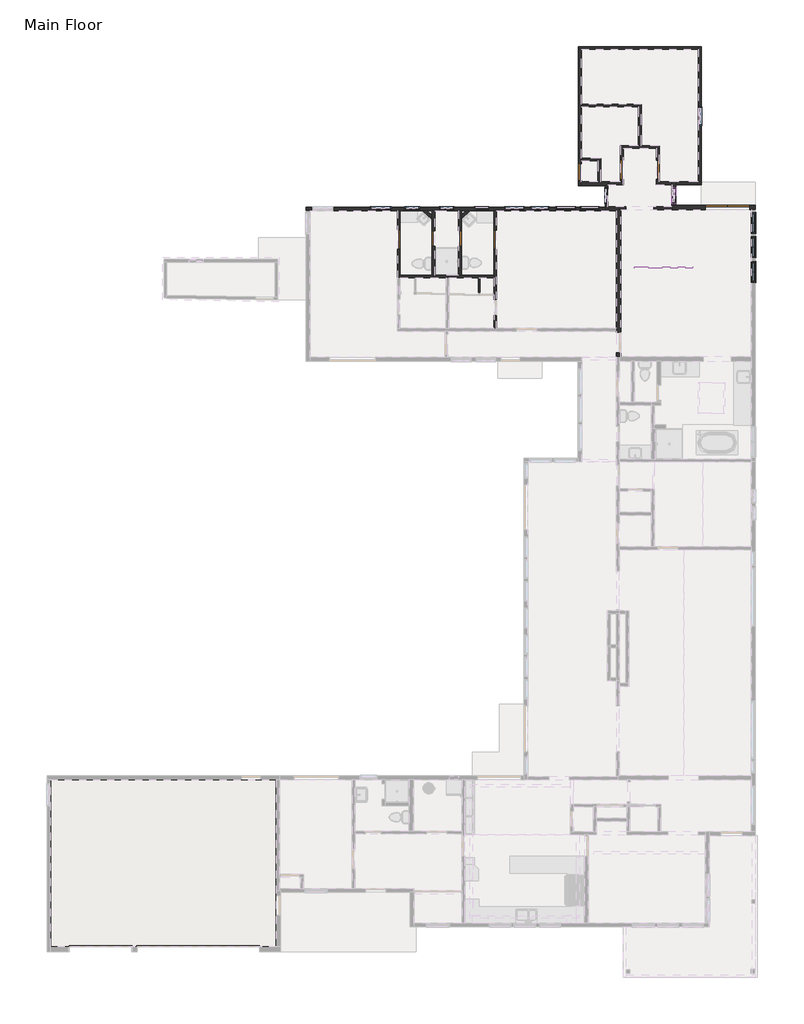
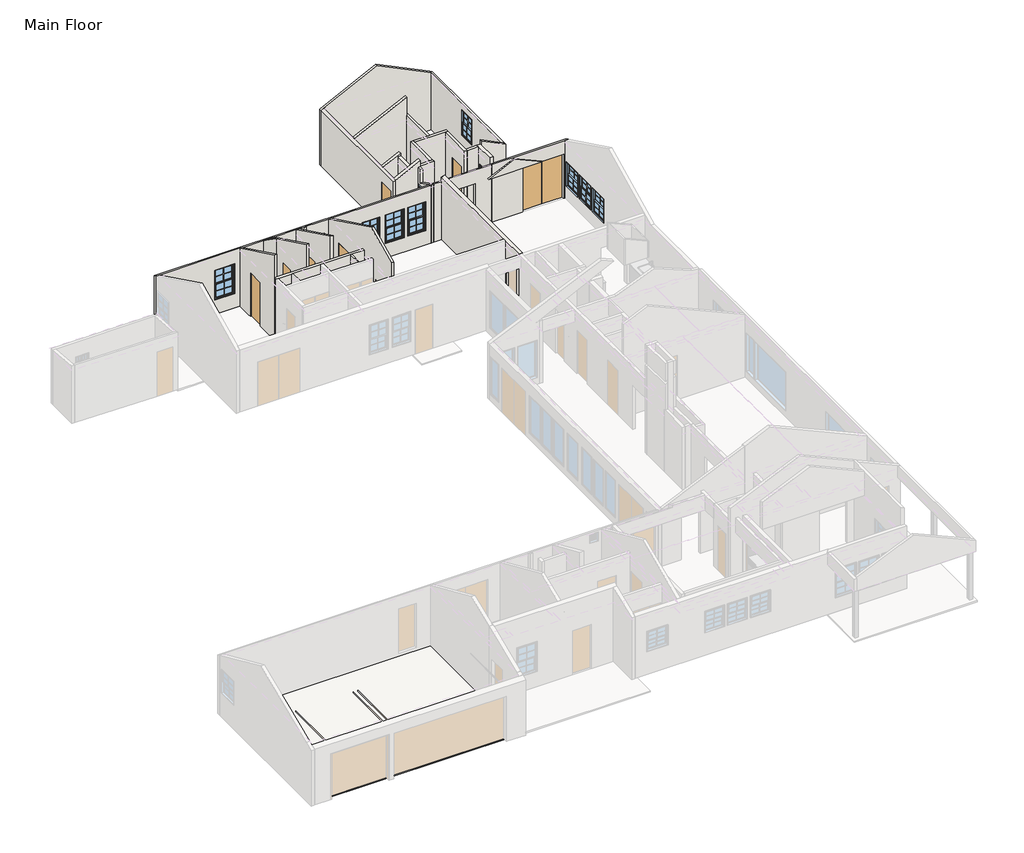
# One storey, part 5 of 7: 30 walls, 14 windows, 8 doors, 1 slab.
"""IFC4 building model written with IfcOpenShell, lengths in millimetres."""

from ifc_helpers import new_model, si_unit, frame, origin, origin_with_axes, place, context, project, spatial, polyline, outline, extrude, faceted_brep, transform, mapped, element, save
from components import door_aef79686, door_b2eef15f, door_72e7b4df, door_aa45f35f, door_f61abd0f, door_c5e53498, default_1_5a369d27, default_1_9b383e01, default_1_c46f66dc, default_1_18b0f4ae, default_1_68fe8677, default_1_9bc41475, default_1_c23df90b, default_1_4a507d28

model = new_model("IFC4")

# Units and contexts
model_context = context("Model", 3, world=origin())
ifc_project = project(units=[si_unit("LENGTHUNIT", "METRE", prefix="MILLI")], contexts=[model_context])

# Site, building, storey
site = spatial("IfcSite", under=ifc_project)
building = spatial("IfcBuilding", under=site)
storey = spatial("IfcBuildingStorey", under=building, Name="Main Floor", Elevation=0.0)

# Doors
placement = place(None, origin())
door_shape = door_aef79686(model_context)
element("IfcDoor", 1, ObjectType="Planitar - Single Door_Flush Panel : 2'-0\" x 6'-8\"", at=placement, inside=storey, context=model_context, shape_type="MappedRepresentation", body=[
    mapped(door_shape, transform((3628.8343008, 18102.5092932, 0.0), x_axis=(0.0, 1.0, 0.0), y_axis=(-1.0, 0.0, 0.0), z_axis=(0.0, 0.0, 1.0))),
])
door_2_shape = door_b2eef15f(model_context)
element("IfcDoor", 2, ObjectType="Planitar - Single Door_Flush Panel : 2'-0\" x 6'-8\"", at=placement, inside=storey, context=model_context, shape_type="MappedRepresentation", body=[
    mapped(door_2_shape, transform((4689.2843008, 18102.5092932, 0.0), x_axis=(0.0, 1.0, 0.0), y_axis=(-1.0, 0.0, 0.0), z_axis=(0.0, 0.0, 1.0))),
])
door_3_shape = door_72e7b4df(model_context)
element("IfcDoor", 3, ObjectType="Planitar - Single Door_Flush Panel : 2'-2\" x 6'-8\"", at=placement, inside=storey, context=model_context, shape_type="MappedRepresentation", body=[
    mapped(door_3_shape, transform((9477.1843008, 20744.8752932, 0.0), x_axis=(0.0, -1.0, 0.0), y_axis=(1.0, 0.0, 0.0), z_axis=(0.0, 0.0, 1.0))),
])
door_4_shape = door_aa45f35f(model_context)
element("IfcDoor", 4, ObjectType="Planitar - Single Door_Flush Panel : 2'-6\" x 6'-8\"", at=placement, inside=storey, context=model_context, shape_type="MappedRepresentation", body=[
    mapped(door_4_shape, transform((2244.5343008, 18059.0132932, 0.0), x_axis=(0.0, -1.0, 0.0), y_axis=(1.0, 0.0, 0.0), z_axis=(0.0, 0.0, 1.0))),
])
element("IfcDoor", 5, ObjectType="Planitar - Single Door_Flush Panel : 2'-6\" x 6'-8\"", at=placement, inside=storey, context=model_context, shape_type="MappedRepresentation", body=[
    mapped(door_4_shape, transform((12588.6843008, 20834.7341932, 0.0), x_axis=(0.0, -1.0, 0.0), y_axis=(1.0, 0.0, 0.0), z_axis=(0.0, 0.0, 1.0))),
])
door_5_shape = door_f61abd0f(model_context)
element("IfcDoor", 6, ObjectType="Planitar - Single Door_Flush Panel : 2'-6\" x 6'-8\"", at=placement, inside=storey, context=model_context, shape_type="MappedRepresentation", body=[
    mapped(door_5_shape, transform((6092.6343008, 18052.7089932, 0.0), x_axis=(0.0, -1.0, 0.0), y_axis=(1.0, 0.0, 0.0), z_axis=(0.0, 0.0, 1.0))),
])
element("IfcDoor", 7, ObjectType="Planitar - Single Door_Flush Panel : 2'-6\" x 6'-8\"", at=placement, inside=storey, context=model_context, shape_type="MappedRepresentation", body=[
    mapped(door_5_shape, transform((11153.5843008, 20838.0552932, 0.0), x_axis=(0.0, -1.0, 0.0), y_axis=(1.0, 0.0, 0.0), z_axis=(0.0, 0.0, 1.0))),
])
door_6_shape = door_c5e53498(model_context)
element("IfcDoor", 8, ObjectType="Planitar - Double Door_Flush Panel : 5'-10\" x 6'-8\"", at=placement, inside=storey, context=model_context, shape_type="MappedRepresentation", body=[
    mapped(door_6_shape, transform((15374.9071008, 19335.1752932, 0.0), x_axis=(1.0, 0.0, 0.0), y_axis=(0.0, 1.0, 0.0), z_axis=(0.0, 0.0, 1.0))),
])

# Slab
element("IfcSlab", 9, ObjectType="Ledge - 2\"", at=placement, inside=storey, context=model_context, shape_type="SweptSolid", body=[
    extrude(outline(polyline([(-2651.3156992, -3480.3747068), (-2651.3156992, -10135.1747068), (-11636.5656992, -10135.1747068), (-11636.5656992, -3480.3747068), (-2651.3156992, -3480.3747068)])), frame((0.0, 0.0, -190.5), z_axis=(0.0, 0.0, 1.0), x_axis=(1.0, 0.0, 0.0)), (0.0, 0.0, 1.0), 50.8),
])

# Walls
element("IfcWall", 10, ObjectType="Planitar - Generic 6 1/2\"", at=placement, inside=storey, context=model_context, shape_type="Brep", body=[
    faceted_brep([(13141.1343008, 19417.7252932, 0.0), (13141.1343008, 19417.7252932, 2565.4), (16468.5343008, 19417.7252932, 2565.4), (16468.5343008, 19417.7252932, 0.0), (16263.9071008, 19417.7252932, 0.0), (16263.9071008, 19417.7252932, 2032.0), (14485.9071008, 19417.7252932, 2032.0), (14485.9071008, 19417.7252932, 0.0), (13293.5343008, 19417.7252932, 0.0), (13141.1343008, 19252.6252932, 2645.9246504), (13141.1343008, 19252.6252932, 0.0), (14485.9071008, 19252.6252932, 0.0), (14485.9071008, 19252.6252932, 2032.0), (16263.9071008, 19252.6252932, 2032.0), (16263.9071008, 19252.6252932, 0.0), (16316.1343008, 19252.6252932, 0.0), (16468.5343008, 19252.6252932, 0.0), (16468.5343008, 19252.6252932, 2645.9246504), (16316.1343008, 19252.6252932, 2645.9246504), (13141.1343008, 19366.9252932, 0.0), (13141.1343008, 19366.9252932, 2590.1768155)], [[[0, 1, 2, 3, 4, 5, 6, 7, 8]], [[9, 10, 11, 12, 13, 14, 15, 16, 17, 18]], [[10, 19, 0, 8, 7, 11]], [[3, 16, 15, 14, 4]], [[1, 0, 19, 10, 9, 20]], [[13, 5, 4, 14]], [[5, 13, 12, 6]], [[6, 12, 11, 7]], [[2, 1, 20, 9, 18, 17]], [[3, 2, 17, 16]]]),
])
element("IfcWall", 11, ObjectType="Planitar - Generic 6\"", at=placement, inside=storey, context=model_context, shape_type="Brep", body=[
    faceted_brep([(13293.5343008, 19417.7252932, 0.0), (13293.5343008, 20249.5752932, 0.0), (13293.5343008, 20363.8752932, 0.0), (13293.5343008, 20363.8752932, 2870.2), (13293.5343008, 19417.7252932, 2870.2), (13293.5343008, 20144.5942932, 2133.6), (13293.5343008, 20144.5942932, 1397.0), (13293.5343008, 19484.1942932, 1397.0), (13293.5343008, 19484.1942932, 2133.6), (13141.1343008, 19417.7252932, 0.0), (13141.1343008, 19417.7252932, 2565.4), (13141.1343008, 19417.7252932, 2870.2), (13141.1343008, 20249.5752932, 2870.2), (13141.1343008, 20363.8752932, 2870.2), (13141.1343008, 20363.8752932, 0.0), (13141.1343008, 20249.5752932, 0.0), (13141.1343008, 20144.5942932, 2133.6), (13141.1343008, 19484.1942932, 2133.6), (13141.1343008, 19484.1942932, 1397.0), (13141.1343008, 20144.5942932, 1397.0)], [[[0, 1, 2, 3, 4], [5, 6, 7, 8]], [[9, 10, 11, 12, 13, 14, 15], [16, 17, 18, 19]], [[2, 1, 0, 9, 15, 14]], [[4, 3, 13, 12, 11]], [[0, 4, 11, 10, 9]], [[3, 2, 14, 13]], [[6, 5, 16, 19]], [[7, 6, 19, 18]], [[8, 7, 18, 17]], [[5, 8, 17, 16]]]),
])
element("IfcWall", 12, ObjectType="Planitar - Generic 4 1/2\"", at=placement, inside=storey, context=model_context, shape_type="Brep", body=[
    faceted_brep([(13293.5343008, 20249.5752932, 0.0), (14315.8843008, 20249.5752932, 0.0), (14315.8843008, 20249.5752932, 2565.4), (13293.5343008, 20249.5752932, 3064.0334119), (13293.5343008, 20363.8752932, 0.0), (13293.5343008, 20363.8752932, 2870.2), (13293.5343008, 20363.8752932, 3064.0334119), (14201.5843008, 20363.8752932, 2621.1478349), (14315.8843008, 20363.8752932, 2565.4), (14315.8843008, 20363.8752932, 0.0), (14201.5843008, 20363.8752932, 0.0)], [[[0, 1, 2, 3]], [[4, 5, 6, 7, 8, 9, 10]], [[1, 0, 4, 10, 9]], [[0, 3, 6, 5, 4]], [[2, 1, 9, 8]], [[3, 2, 8, 7, 6]]]),
])
element("IfcWall", 13, ObjectType="Planitar - Generic 4 1/2\"", at=placement, inside=storey, context=model_context, shape_type="Brep", body=[
    faceted_brep([(14315.8843008, 20363.8752932, 0.0), (14315.8843008, 25755.0252932, 0.0), (14315.8843008, 25755.0252932, 2565.4), (14315.8843008, 20363.8752932, 2565.4), (14315.8843008, 23361.9081932, 2311.4), (14315.8843008, 23361.9081932, 1143.0), (14315.8843008, 22599.9081932, 1143.0), (14315.8843008, 22599.9081932, 2311.4), (14201.5843008, 20363.8752932, 0.0), (14201.5843008, 20363.8752932, 2621.1478349), (14201.5843008, 25640.7252932, 2621.1478349), (14201.5843008, 25755.0252932, 2621.1478349), (14201.5843008, 25755.0252932, 0.0), (14201.5843008, 25640.7252932, 0.0), (14201.5843008, 23361.9081932, 2311.4), (14201.5843008, 22599.9081932, 2311.4), (14201.5843008, 22599.9081932, 1143.0), (14201.5843008, 23361.9081932, 1143.0)], [[[0, 1, 2, 3], [4, 5, 6, 7]], [[8, 9, 10, 11, 12, 13], [14, 15, 16, 17]], [[1, 0, 8, 13, 12]], [[0, 3, 9, 8]], [[2, 1, 12, 11]], [[5, 4, 14, 17]], [[6, 5, 17, 16]], [[7, 6, 16, 15]], [[4, 7, 15, 14]], [[3, 2, 11, 10, 9]]]),
])
element("IfcWall", 14, ObjectType="Planitar - Generic 4 1/2\"", at=placement, inside=storey, context=model_context, shape_type="Brep", body=[
    faceted_brep([(14201.5843008, 25755.0252932, 0.0), (9420.0343008, 25755.0252932, 0.0), (9420.0343008, 25755.0252932, 2565.4), (11867.9593008, 25755.0252932, 3759.3327969), (14201.5843008, 25755.0252932, 2621.1478349), (14201.5843008, 25640.7252932, 0.0), (14201.5843008, 25640.7252932, 2621.1478349), (11867.9593008, 25640.7252932, 3759.3327969), (9534.3343008, 25640.7252932, 2621.1478349), (9420.0343008, 25640.7252932, 2565.4), (9420.0343008, 25640.7252932, 0.0), (9534.3343008, 25640.7252932, 0.0)], [[[0, 1, 2, 3, 4]], [[5, 6, 7, 8, 9, 10, 11]], [[1, 0, 5, 11, 10]], [[0, 4, 6, 5]], [[2, 1, 10, 9]], [[4, 3, 7, 6]], [[3, 2, 9, 8, 7]]]),
])
element("IfcWall", 15, ObjectType="Planitar - Generic 4 1/2\"", at=placement, inside=storey, context=model_context, shape_type="Brep", body=[
    faceted_brep([(9420.0343008, 20414.6752932, 2032.0), (9420.0343008, 20414.6752932, 0.0), (9420.0343008, 20211.4752932, 0.0), (9420.0343008, 20211.4752932, 2565.4), (9420.0343008, 25640.7252932, 2565.4), (9420.0343008, 25640.7252932, 0.0), (9420.0343008, 21075.0752932, 0.0), (9420.0343008, 21075.0752932, 2032.0), (9534.3343008, 20211.4752932, 0.0), (9534.3343008, 20363.8752932, 0.0), (9534.3343008, 20414.6752932, 0.0), (9534.3343008, 20414.6752932, 2032.0), (9534.3343008, 21075.0752932, 2032.0), (9534.3343008, 21075.0752932, 0.0), (9534.3343008, 21195.7252932, 0.0), (9534.3343008, 21310.0252932, 0.0), (9534.3343008, 23348.3752932, 0.0), (9534.3343008, 23462.6752932, 0.0), (9534.3343008, 25640.7252932, 0.0), (9534.3343008, 25640.7252932, 2621.1478349), (9534.3343008, 23462.6752932, 2621.1478349), (9534.3343008, 23348.3752932, 2621.1478349), (9534.3343008, 21310.0252932, 2621.1478349), (9534.3343008, 21195.7252932, 2621.1478349), (9534.3343008, 20363.8752932, 2621.1478349), (9534.3343008, 20211.4752932, 2621.1478349)], [[[0, 1, 2, 3, 4, 5, 6, 7]], [[8, 9, 10, 11, 12, 13, 14, 15, 16, 17, 18, 19, 20, 21, 22, 23, 24, 25]], [[6, 5, 18, 17, 16, 15, 14, 13]], [[2, 1, 10, 9, 8]], [[5, 4, 19, 18]], [[3, 2, 8, 25]], [[11, 10, 1, 0]], [[12, 11, 0, 7]], [[13, 12, 7, 6]], [[4, 3, 25, 24, 23, 22, 21, 20, 19]]]),
])
element("IfcWall", 16, ObjectType="Planitar - Generic 6\"", at=placement, inside=storey, context=model_context, shape_type="Brep", body=[
    faceted_brep([(9534.3343008, 20211.4752932, 0.0), (10486.8343008, 20211.4752932, 0.0), (10601.1343008, 20211.4752932, 0.0), (10601.1343008, 20211.4752932, 2870.2), (10601.1343008, 20211.4752932, 3141.4609604), (9534.3343008, 20211.4752932, 2621.1478349), (9534.3343008, 20363.8752932, 0.0), (9534.3343008, 20363.8752932, 2621.1478349), (10601.1343008, 20363.8752932, 3141.4609604), (10601.1343008, 20363.8752932, 2870.2), (10601.1343008, 20363.8752932, 0.0), (10302.6843008, 20363.8752932, 0.0), (10188.3843008, 20363.8752932, 0.0), (10601.1343008, 20249.5752932, 0.0)], [[[0, 1, 2, 3, 4, 5]], [[6, 7, 8, 9, 10, 11, 12]], [[2, 1, 0, 6, 12, 11, 10, 13]], [[0, 5, 7, 6]], [[4, 3, 2, 13, 10, 9, 8]], [[5, 4, 8, 7]]]),
])
element("IfcWall", 17, ObjectType="Planitar - Generic 4 1/2\"", at=placement, inside=storey, context=model_context, shape_type="Brep", body=[
    faceted_brep([(10486.8343008, 20211.4752932, 0.0), (10486.8343008, 19354.2252932, 0.0), (10486.8343008, 19214.5252932, 0.0), (10486.8343008, 19214.5252932, 2664.507262), (10486.8343008, 19354.2252932, 2596.3710194), (10486.8343008, 20027.3252932, 2268.078214), (10486.8343008, 20027.3252932, 2870.2), (10486.8343008, 20211.4752932, 2870.2), (10486.8343008, 19481.8714932, 2133.6), (10486.8343008, 19481.8714932, 812.8), (10486.8343008, 20142.2714932, 812.8), (10486.8343008, 20142.2714932, 2133.6), (10601.1343008, 20211.4752932, 0.0), (10601.1343008, 20211.4752932, 2870.2), (10601.1343008, 20027.3252932, 2870.2), (10601.1343008, 20027.3252932, 2268.078214), (10601.1343008, 19366.9252932, 2590.1768155), (10601.1343008, 19214.5252932, 2664.507262), (10601.1343008, 19214.5252932, 0.0), (10601.1343008, 19366.9252932, 0.0), (10601.1343008, 19481.8714932, 2133.6), (10601.1343008, 20142.2714932, 2133.6), (10601.1343008, 20142.2714932, 812.8), (10601.1343008, 19481.8714932, 812.8)], [[[0, 1, 2, 3, 4, 5, 6, 7], [8, 9, 10, 11]], [[12, 13, 14, 15, 16, 17, 18, 19], [20, 21, 22, 23]], [[2, 1, 0, 12, 19, 18]], [[0, 7, 13, 12]], [[3, 2, 18, 17]], [[9, 8, 20, 23]], [[10, 9, 23, 22]], [[11, 10, 22, 21]], [[8, 11, 21, 20]], [[7, 6, 14, 13]], [[14, 6, 5, 15]], [[5, 4, 3, 17, 16, 15]]]),
])
element("IfcWall", 18, ObjectType="Planitar - Generic 5 1/2\"", at=placement, inside=storey, context=model_context, shape_type="Brep", body=[
    faceted_brep([(10486.8343008, 19354.2252932, 0.0), (-1451.1656992, 19354.2252932, 0.0), (-1451.1656992, 19354.2252932, 2596.3710194), (10486.8343008, 19354.2252932, 2596.3710194), (9483.6013008, 19354.2252932, 1981.2), (9483.6013008, 19354.2252932, 660.4), (10245.6013008, 19354.2252932, 660.4), (10245.6013008, 19354.2252932, 1981.2), (8502.3847008, 19354.2252932, 1981.2), (8502.3847008, 19354.2252932, 660.4), (9315.1847008, 19354.2252932, 660.4), (9315.1847008, 19354.2252932, 1981.2), (7496.3708008, 19354.2252932, 1981.2), (7496.3708008, 19354.2252932, 660.4), (8258.3708008, 19354.2252932, 660.4), (8258.3708008, 19354.2252932, 1981.2), (6457.2860008, 19354.2252932, 1981.2), (6457.2860008, 19354.2252932, 660.4), (7270.0860008, 19354.2252932, 660.4), (7270.0860008, 19354.2252932, 1981.2), (5242.9620008, 19354.2252932, 2082.8), (5242.9620008, 19354.2252932, 1092.2), (5852.5620008, 19354.2252932, 1092.2), (5852.5620008, 19354.2252932, 2082.8), (3857.6188008, 19354.2252932, 2082.8), (3857.6188008, 19354.2252932, 1092.2), (4467.2188008, 19354.2252932, 1092.2), (4467.2188008, 19354.2252932, 2082.8), (2475.1500008, 19354.2252932, 2082.8), (2475.1500008, 19354.2252932, 1092.2), (3084.7500008, 19354.2252932, 1092.2), (3084.7500008, 19354.2252932, 2082.8), (1094.1622008, 19354.2252932, 2032.0), (1094.1622008, 19354.2252932, 660.4), (1957.7622008, 19354.2252932, 660.4), (1957.7622008, 19354.2252932, 2032.0), (-1212.7043992, 19354.2252932, 2032.0), (-1212.7043992, 19354.2252932, 660.4), (-349.1043992, 19354.2252932, 660.4), (-349.1043992, 19354.2252932, 2032.0), (10486.8343008, 19214.5252932, 0.0), (10486.8343008, 19214.5252932, 2664.507262), (6149.7843008, 19214.5252932, 2664.507262), (6035.4843008, 19214.5252932, 2664.507262), (5081.2566008, 19214.5252932, 2664.507262), (4919.6119906, 19214.5252932, 2664.507262), (4746.4343008, 19214.5252932, 2664.507262), (4632.1343008, 19214.5252932, 2664.507262), (3685.9843008, 19214.5252932, 2664.507262), (3571.6843008, 19214.5252932, 2664.507262), (3369.2054117, 19214.5252932, 2664.507262), (3201.6097008, 19214.5252932, 2664.507262), (2301.6843008, 19214.5252932, 2664.507262), (2187.3843008, 19214.5252932, 2664.507262), (-1298.7656992, 19214.5252932, 2664.507262), (-1451.1656992, 19214.5252932, 2664.507262), (-1451.1656992, 19214.5252932, 0.0), (-1298.7656992, 19214.5252932, 0.0), (2187.3843008, 19214.5252932, 0.0), (2301.6843008, 19214.5252932, 0.0), (3201.6097008, 19214.5252932, 0.0), (3369.2054117, 19214.5252932, 0.0), (3571.6843008, 19214.5252932, 0.0), (3685.9843008, 19214.5252932, 0.0), (4632.1343008, 19214.5252932, 0.0), (4746.4343008, 19214.5252932, 0.0), (4919.6119906, 19214.5252932, 0.0), (5081.2566008, 19214.5252932, 0.0), (6035.4843008, 19214.5252932, 0.0), (6149.7843008, 19214.5252932, 0.0), (9483.6013008, 19214.5252932, 1981.2), (10245.6013008, 19214.5252932, 1981.2), (10245.6013008, 19214.5252932, 660.4), (9483.6013008, 19214.5252932, 660.4), (8502.3847008, 19214.5252932, 1981.2), (9315.1847008, 19214.5252932, 1981.2), (9315.1847008, 19214.5252932, 660.4), (8502.3847008, 19214.5252932, 660.4), (7496.3708008, 19214.5252932, 1981.2), (8258.3708008, 19214.5252932, 1981.2), (8258.3708008, 19214.5252932, 660.4), (7496.3708008, 19214.5252932, 660.4), (6457.2860008, 19214.5252932, 1981.2), (7270.0860008, 19214.5252932, 1981.2), (7270.0860008, 19214.5252932, 660.4), (6457.2860008, 19214.5252932, 660.4), (5242.9620008, 19214.5252932, 2082.8), (5852.5620008, 19214.5252932, 2082.8), (5852.5620008, 19214.5252932, 1092.2), (5242.9620008, 19214.5252932, 1092.2), (3857.6188008, 19214.5252932, 2082.8), (4467.2188008, 19214.5252932, 2082.8), (4467.2188008, 19214.5252932, 1092.2), (3857.6188008, 19214.5252932, 1092.2), (2475.1500008, 19214.5252932, 2082.8), (3084.7500008, 19214.5252932, 2082.8), (3084.7500008, 19214.5252932, 1092.2), (2475.1500008, 19214.5252932, 1092.2), (1094.1622008, 19214.5252932, 2032.0), (1957.7622008, 19214.5252932, 2032.0), (1957.7622008, 19214.5252932, 660.4), (1094.1622008, 19214.5252932, 660.4), (-1212.7043992, 19214.5252932, 2032.0), (-349.1043992, 19214.5252932, 2032.0), (-349.1043992, 19214.5252932, 660.4), (-1212.7043992, 19214.5252932, 660.4)], [[[0, 1, 2, 3], [4, 5, 6, 7], [8, 9, 10, 11], [12, 13, 14, 15], [16, 17, 18, 19], [20, 21, 22, 23], [24, 25, 26, 27], [28, 29, 30, 31], [32, 33, 34, 35], [36, 37, 38, 39]], [[40, 41, 42, 43, 44, 45, 46, 47, 48, 49, 50, 51, 52, 53, 54, 55, 56, 57, 58, 59, 60, 61, 62, 63, 64, 65, 66, 67, 68, 69], [70, 71, 72, 73], [74, 75, 76, 77], [78, 79, 80, 81], [82, 83, 84, 85], [86, 87, 88, 89], [90, 91, 92, 93], [94, 95, 96, 97], [98, 99, 100, 101], [102, 103, 104, 105]], [[1, 0, 40, 69, 68, 67, 66, 65, 64, 63, 62, 61, 60, 59, 58, 57, 56]], [[0, 3, 41, 40]], [[2, 1, 56, 55]], [[5, 4, 70, 73]], [[6, 5, 73, 72]], [[7, 6, 72, 71]], [[4, 7, 71, 70]], [[9, 8, 74, 77]], [[10, 9, 77, 76]], [[11, 10, 76, 75]], [[8, 11, 75, 74]], [[13, 12, 78, 81]], [[14, 13, 81, 80]], [[15, 14, 80, 79]], [[12, 15, 79, 78]], [[17, 16, 82, 85]], [[18, 17, 85, 84]], [[19, 18, 84, 83]], [[16, 19, 83, 82]], [[21, 20, 86, 89]], [[22, 21, 89, 88]], [[23, 22, 88, 87]], [[20, 23, 87, 86]], [[25, 24, 90, 93]], [[26, 25, 93, 92]], [[27, 26, 92, 91]], [[24, 27, 91, 90]], [[29, 28, 94, 97]], [[30, 29, 97, 96]], [[31, 30, 96, 95]], [[28, 31, 95, 94]], [[33, 32, 98, 101]], [[34, 33, 101, 100]], [[35, 34, 100, 99]], [[32, 35, 99, 98]], [[37, 36, 102, 105]], [[38, 37, 105, 104]], [[39, 38, 104, 103]], [[36, 39, 103, 102]], [[3, 2, 55, 54, 53, 52, 51, 50, 49, 48, 47, 46, 45, 44, 43, 42, 41]]]),
])
element("IfcWall", 19, ObjectType="Planitar - Generic 6 1/2\"", at=placement, inside=storey, context=model_context, shape_type="Brep", body=[
    faceted_brep([(11102.7843008, 13378.8752932, 0.0), (11102.7843008, 13540.9496932, 0.0), (11102.7843008, 13540.9496932, 2032.0), (11102.7843008, 14353.7496932, 2032.0), (11102.7843008, 14353.7496932, 0.0), (11102.7843008, 19252.6252932, 0.0), (11102.7843008, 19252.6252932, 2870.2), (11102.7843008, 13378.8752932, 2870.2), (10937.6843008, 13540.9496932, 2032.0), (10937.6843008, 13540.9496932, 0.0), (10937.6843008, 13378.8752932, 0.0), (10937.6843008, 13378.8752932, 2870.2), (10937.6843008, 14401.2252932, 2870.2), (10937.6843008, 14515.5252932, 2870.2), (10937.6843008, 19214.5252932, 2870.2), (10937.6843008, 19214.5252932, 0.0), (10937.6843008, 14515.5252932, 0.0), (10937.6843008, 14401.2252932, 0.0), (10937.6843008, 14353.7496932, 0.0), (10937.6843008, 14353.7496932, 2032.0), (11051.9843008, 13378.8752932, 0.0), (11020.2343008, 19214.5252932, 0.0), (11020.2343008, 19252.6252932, 0.0), (11020.2343008, 19252.6252932, 2870.2), (11020.2343008, 19214.5252932, 2870.2), (11051.9843008, 13378.8752932, 2870.2), (11020.2343008, 19252.6252932, 2645.9246504), (11020.2343008, 19214.5252932, 2664.507262)], [[[0, 1, 2, 3, 4, 5, 6, 7]], [[8, 9, 10, 11, 12, 13, 14, 15, 16, 17, 18, 19]], [[10, 9, 1, 0, 20]], [[18, 17, 16, 15, 21, 22, 5, 4]], [[7, 6, 23, 24, 14, 13, 12, 11, 25]], [[6, 5, 22, 26, 23]], [[22, 21, 27, 24, 23, 26]], [[21, 15, 14, 24, 27]], [[2, 1, 9, 8]], [[3, 2, 8, 19]], [[4, 3, 19, 18]], [[7, 25, 11, 10, 20, 0]]]),
])
element("IfcWall", 20, ObjectType="Planitar - Generic 4 1/2\"", at=placement, inside=storey, context=model_context, shape_type="Brep", body=[
    faceted_brep([(6149.7843008, 14515.5252932, 0.0), (6149.7843008, 15044.7738932, 0.0), (6149.7843008, 15044.7738932, 2032.0), (6149.7843008, 15654.3738932, 2032.0), (6149.7843008, 15654.3738932, 0.0), (6149.7843008, 17671.7089932, 0.0), (6149.7843008, 17671.7089932, 2032.0), (6149.7843008, 18433.7089932, 2032.0), (6149.7843008, 18433.7089932, 0.0), (6149.7843008, 19214.5252932, 0.0), (6149.7843008, 19214.5252932, 2664.507262), (6149.7843008, 16007.7752932, 4228.5437404), (6149.7843008, 14515.5252932, 3500.7247851), (6035.4843008, 15044.7738932, 2032.0), (6035.4843008, 15044.7738932, 0.0), (6035.4843008, 14515.5252932, 0.0), (6035.4843008, 14515.5252932, 3500.7247851), (6035.4843008, 16007.7752932, 4228.5437404), (6035.4843008, 19214.5252932, 2664.507262), (6035.4843008, 19214.5252932, 0.0), (6035.4843008, 18433.7089932, 0.0), (6035.4843008, 18433.7089932, 2032.0), (6035.4843008, 17671.7089932, 2032.0), (6035.4843008, 17671.7089932, 0.0), (6035.4843008, 16642.7752932, 0.0), (6035.4843008, 16528.4752932, 0.0), (6035.4843008, 15944.2752932, 0.0), (6035.4843008, 15829.9752932, 0.0), (6035.4843008, 15654.3738932, 0.0), (6035.4843008, 15654.3738932, 2032.0)], [[[0, 1, 2, 3, 4, 5, 6, 7, 8, 9, 10, 11, 12]], [[13, 14, 15, 16, 17, 18, 19, 20, 21, 22, 23, 24, 25, 26, 27, 28, 29]], [[20, 19, 9, 8]], [[15, 14, 1, 0]], [[28, 27, 26, 25, 24, 23, 5, 4]], [[0, 12, 16, 15]], [[10, 9, 19, 18]], [[6, 5, 23, 22]], [[7, 6, 22, 21]], [[8, 7, 21, 20]], [[2, 1, 14, 13]], [[3, 2, 13, 29]], [[4, 3, 29, 28]], [[12, 11, 17, 16]], [[11, 10, 18, 17]]]),
])
element("IfcWall", 21, ObjectType="Planitar - Generic 4 1/2\"", at=placement, inside=storey, context=model_context, shape_type="Brep", body=[
    faceted_brep([(6035.4843008, 16642.7752932, 0.0), (4746.4343008, 16642.7752932, 0.0), (4632.1343008, 16642.7752932, 0.0), (3685.9843008, 16642.7752932, 0.0), (3571.6843008, 16642.7752932, 0.0), (2301.6843008, 16642.7752932, 0.0), (2187.3843008, 16642.7752932, 0.0), (2187.3843008, 16642.7752932, 2870.2), (6035.4843008, 16642.7752932, 2870.2), (6035.4843008, 16528.4752932, 0.0), (6035.4843008, 16528.4752932, 2870.2), (5483.0343008, 16528.4752932, 2870.2), (5432.2343008, 16528.4752932, 2870.2), (4244.7843008, 16528.4752932, 2870.2), (4130.4843008, 16528.4752932, 2870.2), (2930.3343008, 16528.4752932, 2870.2), (2879.5343008, 16528.4752932, 2870.2), (2301.6843008, 16528.4752932, 2870.2), (2187.3843008, 16528.4752932, 2870.2), (2187.3843008, 16528.4752932, 0.0), (2301.6843008, 16528.4752932, 0.0), (2879.5343008, 16528.4752932, 0.0), (2930.3343008, 16528.4752932, 0.0), (4130.4843008, 16528.4752932, 0.0), (4244.7843008, 16528.4752932, 0.0), (5432.2343008, 16528.4752932, 0.0), (5483.0343008, 16528.4752932, 0.0)], [[[0, 1, 2, 3, 4, 5, 6, 7, 8]], [[9, 10, 11, 12, 13, 14, 15, 16, 17, 18, 19, 20, 21, 22, 23, 24, 25, 26]], [[6, 5, 4, 3, 2, 1, 0, 9, 26, 25, 24, 23, 22, 21, 20, 19]], [[8, 7, 18, 17, 16, 15, 14, 13, 12, 11, 10]], [[0, 8, 10, 9]], [[7, 6, 19, 18]]]),
])
element("IfcWall", 22, ObjectType="Planitar - Generic 4 1/2\"", at=placement, inside=storey, context=model_context, shape_type="Brep", body=[
    faceted_brep([(2301.6843008, 16642.7752932, 0.0), (2301.6843008, 17678.0132932, 0.0), (2301.6843008, 17678.0132932, 2032.0), (2301.6843008, 18440.0132932, 2032.0), (2301.6843008, 18440.0132932, 0.0), (2301.6843008, 19214.5252932, 0.0), (2301.6843008, 19214.5252932, 2664.507262), (2301.6843008, 16642.7752932, 3918.8335466), (2187.3843008, 17678.0132932, 2032.0), (2187.3843008, 17678.0132932, 0.0), (2187.3843008, 16642.7752932, 0.0), (2187.3843008, 16642.7752932, 2870.2), (2187.3843008, 16642.7752932, 3918.8335466), (2187.3843008, 19214.5252932, 2664.507262), (2187.3843008, 19214.5252932, 0.0), (2187.3843008, 18440.0132932, 0.0), (2187.3843008, 18440.0132932, 2032.0)], [[[0, 1, 2, 3, 4, 5, 6, 7]], [[8, 9, 10, 11, 12, 13, 14, 15, 16]], [[15, 14, 5, 4]], [[10, 9, 1, 0]], [[0, 7, 12, 11, 10]], [[6, 5, 14, 13]], [[2, 1, 9, 8]], [[3, 2, 8, 16]], [[4, 3, 16, 15]], [[7, 6, 13, 12]]]),
])
element("IfcWall", 23, ObjectType="Planitar - Generic 4 1/2\"", at=placement, inside=storey, context=model_context, shape_type="Brep", body=[
    faceted_brep([(3571.6843008, 19214.5252932, 0.0), (3571.6843008, 19025.7106745, 0.0), (3571.6843008, 18869.4251457, 0.0), (3571.6843008, 18407.3092932, 0.0), (3571.6843008, 18407.3092932, 2032.0), (3571.6843008, 17797.7092932, 2032.0), (3571.6843008, 17797.7092932, 0.0), (3571.6843008, 16642.7752932, 0.0), (3571.6843008, 16642.7752932, 3918.8335466), (3571.6843008, 18869.4251457, 2832.8238502), (3571.6843008, 19025.7106745, 2756.5983047), (3571.6843008, 19214.5252932, 2664.507262), (3685.9843008, 18407.3092932, 2032.0), (3685.9843008, 18407.3092932, 0.0), (3685.9843008, 19214.5252932, 0.0), (3685.9843008, 19214.5252932, 2664.507262), (3685.9843008, 16642.7752932, 3918.8335466), (3685.9843008, 16642.7752932, 0.0), (3685.9843008, 17797.7092932, 0.0), (3685.9843008, 17797.7092932, 2032.0)], [[[0, 1, 2, 3, 4, 5, 6, 7, 8, 9, 10, 11]], [[12, 13, 14, 15, 16, 17, 18, 19]], [[18, 17, 7, 6]], [[14, 13, 3, 2, 1, 0]], [[0, 11, 15, 14]], [[8, 7, 17, 16]], [[4, 3, 13, 12]], [[5, 4, 12, 19]], [[6, 5, 19, 18]], [[11, 10, 9, 8, 16, 15]]]),
])
element("IfcWall", 24, ObjectType="Planitar - Generic 4 1/2\"", at=placement, inside=storey, context=model_context, shape_type="Brep", body=[
    faceted_brep([(4632.1343008, 19214.5252932, 0.0), (4632.1343008, 18407.3092932, 0.0), (4632.1343008, 18407.3092932, 2032.0), (4632.1343008, 17797.7092932, 2032.0), (4632.1343008, 17797.7092932, 0.0), (4632.1343008, 16642.7752932, 0.0), (4632.1343008, 16642.7752932, 3918.8335466), (4632.1343008, 19214.5252932, 2664.507262), (4746.4343008, 18407.3092932, 2032.0), (4746.4343008, 18407.3092932, 0.0), (4746.4343008, 18879.7029932, 0.0), (4746.4343008, 19041.3476034, 0.0), (4746.4343008, 19214.5252932, 0.0), (4746.4343008, 19214.5252932, 2664.507262), (4746.4343008, 19041.3476034, 2748.9716649), (4746.4343008, 18879.7029932, 2827.8110091), (4746.4343008, 16642.7752932, 3918.8335466), (4746.4343008, 16642.7752932, 0.0), (4746.4343008, 17797.7092932, 0.0), (4746.4343008, 17797.7092932, 2032.0)], [[[0, 1, 2, 3, 4, 5, 6, 7]], [[8, 9, 10, 11, 12, 13, 14, 15, 16, 17, 18, 19]], [[18, 17, 5, 4]], [[12, 11, 10, 9, 1, 0]], [[0, 7, 13, 12]], [[6, 5, 17, 16]], [[2, 1, 9, 8]], [[3, 2, 8, 19]], [[4, 3, 19, 18]], [[7, 6, 16, 15, 14, 13]]]),
])
element("IfcWall", 25, ObjectType="Planitar - Generic 4 1/2\"", at=placement, inside=storey, context=model_context, shape_type="Brep", body=[
    faceted_brep([(3201.6097008, 19214.5252932, 0.0), (3571.6843008, 18869.4251457, 0.0), (3571.6843008, 18869.4251457, 2832.8238502), (3201.6097008, 19214.5252932, 2664.507262), (3369.2054117, 19214.5252932, 0.0), (3369.2054117, 19214.5252932, 2664.507262), (3571.6843008, 19025.7106745, 2756.5983047), (3571.6843008, 19025.7106745, 0.0)], [[[0, 1, 2, 3]], [[4, 5, 6, 7]], [[1, 0, 4, 7]], [[0, 3, 5, 4]], [[2, 1, 7, 6]], [[3, 2, 6, 5]]]),
])
element("IfcWall", 26, ObjectType="Planitar - Generic 4 1/2\"", at=placement, inside=storey, context=model_context, shape_type="Brep", body=[
    faceted_brep([(4746.4343008, 18879.7029932, 0.0), (5081.2566008, 19214.5252932, 0.0), (5081.2566008, 19214.5252932, 2664.507262), (4746.4343008, 18879.7029932, 2827.8110091), (4746.4343008, 19041.3476034, 0.0), (4746.4343008, 19041.3476034, 2748.9716649), (4919.6119906, 19214.5252932, 2664.507262), (4919.6119906, 19214.5252932, 0.0)], [[[0, 1, 2, 3]], [[4, 5, 6, 7]], [[1, 0, 4, 7]], [[2, 1, 7, 6]], [[0, 3, 5, 4]], [[3, 2, 6, 5]]]),
])
element("IfcWall", 27, ObjectType="Planitar - Generic 4 1/2\"", at=placement, inside=storey, context=model_context, shape_type="Brep", body=[
    faceted_brep([(10601.1343008, 20249.5752932, 0.0), (11210.7343008, 20249.5752932, 0.0), (11210.7343008, 20249.5752932, 2870.2), (10601.1343008, 20249.5752932, 2870.2), (10601.1343008, 20363.8752932, 0.0), (10601.1343008, 20363.8752932, 2870.2), (11096.4343008, 20363.8752932, 2870.2), (11210.7343008, 20363.8752932, 2870.2), (11210.7343008, 20363.8752932, 0.0), (11096.4343008, 20363.8752932, 0.0)], [[[0, 1, 2, 3]], [[4, 5, 6, 7, 8, 9]], [[1, 0, 4, 9, 8]], [[3, 2, 7, 6, 5]], [[0, 3, 5, 4]], [[2, 1, 8, 7]]]),
])
element("IfcWall", 28, ObjectType="Planitar - Generic 4 1/2\"", at=placement, inside=storey, context=model_context, shape_type="Brep", body=[
    faceted_brep([(11210.7343008, 20363.8752932, 0.0), (11210.7343008, 20457.0552932, 0.0), (11210.7343008, 20457.0552932, 2032.0), (11210.7343008, 21219.0552932, 2032.0), (11210.7343008, 21219.0552932, 0.0), (11210.7343008, 21691.0252932, 0.0), (11210.7343008, 21805.3252932, 0.0), (11210.7343008, 21805.3252932, 2870.2), (11210.7343008, 21691.0252932, 2870.2), (11210.7343008, 20363.8752932, 2870.2), (11096.4343008, 20457.0552932, 2032.0), (11096.4343008, 20457.0552932, 0.0), (11096.4343008, 20363.8752932, 0.0), (11096.4343008, 20363.8752932, 2870.2), (11096.4343008, 21805.3252932, 2870.2), (11096.4343008, 21805.3252932, 0.0), (11096.4343008, 21219.0552932, 0.0), (11096.4343008, 21219.0552932, 2032.0)], [[[0, 1, 2, 3, 4, 5, 6, 7, 8, 9]], [[10, 11, 12, 13, 14, 15, 16, 17]], [[16, 15, 6, 5, 4]], [[12, 11, 1, 0]], [[9, 8, 7, 14, 13]], [[0, 9, 13, 12]], [[7, 6, 15, 14]], [[2, 1, 11, 10]], [[3, 2, 10, 17]], [[4, 3, 17, 16]]]),
])
element("IfcWall", 29, ObjectType="Planitar - Generic 4 1/2\"", at=placement, inside=storey, context=model_context, shape_type="Brep", body=[
    faceted_brep([(11210.7343008, 21691.0252932, 0.0), (12531.5343008, 21691.0252932, 0.0), (12645.8343008, 21691.0252932, 0.0), (12645.8343008, 21691.0252932, 2870.2), (12531.5343008, 21691.0252932, 2870.2), (11210.7343008, 21691.0252932, 2870.2), (11210.7343008, 21805.3252932, 0.0), (11210.7343008, 21805.3252932, 2870.2), (11813.9843008, 21805.3252932, 2870.2), (11928.2843008, 21805.3252932, 2870.2), (12645.8343008, 21805.3252932, 2870.2), (12645.8343008, 21805.3252932, 0.0), (11928.2843008, 21805.3252932, 0.0), (11813.9843008, 21805.3252932, 0.0)], [[[0, 1, 2, 3, 4, 5]], [[6, 7, 8, 9, 10, 11, 12, 13]], [[2, 1, 0, 6, 13, 12, 11]], [[5, 4, 3, 10, 9, 8, 7]], [[0, 5, 7, 6]], [[3, 2, 11, 10]]]),
])
element("IfcWall", 30, ObjectType="Planitar - Generic 4 1/2\"", at=placement, inside=storey, context=model_context, shape_type="Brep", body=[
    faceted_brep([(11928.2843008, 21805.3252932, 0.0), (11928.2843008, 23462.6752932, 0.0), (11928.2843008, 23462.6752932, 2870.2), (11928.2843008, 21805.3252932, 2870.2), (11813.9843008, 21805.3252932, 0.0), (11813.9843008, 21805.3252932, 2870.2), (11813.9843008, 23462.6752932, 2870.2), (11813.9843008, 23462.6752932, 0.0), (11813.9843008, 23348.3752932, 0.0)], [[[0, 1, 2, 3]], [[4, 5, 6, 7, 8]], [[1, 0, 4, 8, 7]], [[3, 2, 6, 5]], [[0, 3, 5, 4]], [[2, 1, 7, 6]]]),
])
element("IfcWall", 31, ObjectType="Planitar - Generic 4 1/2\"", at=placement, inside=storey, context=model_context, shape_type="Brep", body=[
    faceted_brep([(11813.9843008, 23462.6752932, 0.0), (9534.3343008, 23462.6752932, 0.0), (9534.3343008, 23462.6752932, 2621.1478349), (11813.9843008, 23462.6752932, 3733.0074304), (11813.9843008, 23462.6752932, 2870.2), (11813.9843008, 23348.3752932, 0.0), (11813.9843008, 23348.3752932, 3733.0074304), (9534.3343008, 23348.3752932, 2621.1478349), (9534.3343008, 23348.3752932, 0.0)], [[[0, 1, 2, 3, 4]], [[5, 6, 7, 8]], [[1, 0, 5, 8]], [[0, 4, 3, 6, 5]], [[2, 1, 8, 7]], [[3, 2, 7, 6]]]),
])
element("IfcWall", 32, ObjectType="Planitar - Generic 4 1/2\"", at=placement, inside=storey, context=model_context, shape_type="Brep", body=[
    faceted_brep([(12531.5343008, 20453.7341932, 2032.0), (12531.5343008, 20453.7341932, 0.0), (12531.5343008, 20249.5752932, 0.0), (12531.5343008, 20249.5752932, 2870.2), (12531.5343008, 21691.0252932, 2870.2), (12531.5343008, 21691.0252932, 0.0), (12531.5343008, 21215.7341932, 0.0), (12531.5343008, 21215.7341932, 2032.0), (12645.8343008, 20249.5752932, 0.0), (12645.8343008, 20363.8752932, 0.0), (12645.8343008, 20453.7341932, 0.0), (12645.8343008, 20453.7341932, 2032.0), (12645.8343008, 21215.7341932, 2032.0), (12645.8343008, 21215.7341932, 0.0), (12645.8343008, 21691.0252932, 0.0), (12645.8343008, 21691.0252932, 2870.2), (12645.8343008, 20363.8752932, 2870.2), (12645.8343008, 20249.5752932, 2870.2)], [[[0, 1, 2, 3, 4, 5, 6, 7]], [[8, 9, 10, 11, 12, 13, 14, 15, 16, 17]], [[6, 5, 14, 13]], [[2, 1, 10, 9, 8]], [[4, 3, 17, 16, 15]], [[5, 4, 15, 14]], [[3, 2, 8, 17]], [[11, 10, 1, 0]], [[12, 11, 0, 7]], [[13, 12, 7, 6]]]),
])
element("IfcWall", 33, ObjectType="Planitar - Generic 4 1/2\"", at=placement, inside=storey, context=model_context, shape_type="SweptSolid", body=[
    extrude(outline(polyline([(13141.1343008, 20249.5752932), (12645.8343008, 20249.5752932), (12645.8343008, 20363.8752932), (13141.1343008, 20363.8752932), (13141.1343008, 20249.5752932)])), origin_with_axes(), (0.0, 0.0, 1.0), 2870.2),
])
element("IfcWall", 34, ObjectType="Planitar - Generic 4 1/2\"", at=placement, inside=storey, context=model_context, shape_type="Brep", body=[
    faceted_brep([(13141.1343008, 19366.9252932, 0.0), (12417.7423008, 19366.9252932, 0.0), (12417.7423008, 19366.9252932, 2032.0), (11300.1423008, 19366.9252932, 2032.0), (11300.1423008, 19366.9252932, 0.0), (11020.2343008, 19366.9252932, 0.0), (11020.2343008, 19366.9252932, 2590.1768155), (13141.1343008, 19366.9252932, 2590.1768155), (12417.7423008, 19252.6252932, 2032.0), (12417.7423008, 19252.6252932, 0.0), (13141.1343008, 19252.6252932, 0.0), (13141.1343008, 19252.6252932, 2645.9246504), (11020.2343008, 19252.6252932, 2645.9246504), (11020.2343008, 19252.6252932, 0.0), (11102.7843008, 19252.6252932, 0.0), (11300.1423008, 19252.6252932, 0.0), (11300.1423008, 19252.6252932, 2032.0)], [[[0, 1, 2, 3, 4, 5, 6, 7]], [[8, 9, 10, 11, 12, 13, 14, 15, 16]], [[10, 9, 1, 0]], [[15, 14, 13, 5, 4]], [[6, 5, 13, 12]], [[0, 7, 11, 10]], [[4, 3, 16, 15]], [[2, 1, 9, 8]], [[3, 2, 8, 16]], [[7, 6, 12, 11]]]),
])
element("IfcWall", 35, ObjectType="Planitar - Generic 6\"", at=placement, inside=storey, context=model_context, shape_type="Brep", body=[
    faceted_brep([(11020.2343008, 19366.9252932, 0.0), (10601.1343008, 19366.9252932, 0.0), (10601.1343008, 19366.9252932, 2590.1768155), (11020.2343008, 19366.9252932, 2590.1768155), (11020.2343008, 19214.5252932, 0.0), (11020.2343008, 19214.5252932, 2664.507262), (10601.1343008, 19214.5252932, 2664.507262), (10601.1343008, 19214.5252932, 0.0), (10937.6843008, 19214.5252932, 0.0), (11020.2343008, 19252.6252932, 0.0), (11020.2343008, 19252.6252932, 2645.9246504)], [[[0, 1, 2, 3]], [[4, 5, 6, 7, 8]], [[1, 0, 9, 4, 8, 7]], [[0, 3, 10, 5, 4, 9]], [[2, 1, 7, 6]], [[3, 2, 6, 5, 10]]]),
])
element("IfcWall", 36, ObjectType="Planitar - Generic 4 1/2\"", at=placement, inside=storey, context=model_context, shape_type="Brep", body=[
    faceted_brep([(9534.3343008, 21195.7252932, 0.0), (10188.3843008, 21195.7252932, 0.0), (10302.6843008, 21195.7252932, 0.0), (10302.6843008, 21195.7252932, 2870.2), (10302.6843008, 21195.7252932, 2995.8971693), (9534.3343008, 21195.7252932, 2621.1478349), (9534.3343008, 21310.0252932, 0.0), (9534.3343008, 21310.0252932, 2621.1478349), (10302.6843008, 21310.0252932, 2995.8971693), (10302.6843008, 21310.0252932, 0.0)], [[[0, 1, 2, 3, 4, 5]], [[6, 7, 8, 9]], [[2, 1, 0, 6, 9]], [[0, 5, 7, 6]], [[4, 3, 2, 9, 8]], [[5, 4, 8, 7]]]),
])
element("IfcWall", 37, ObjectType="Planitar - Generic 4 1/2\"", at=placement, inside=storey, context=model_context, shape_type="SweptSolid", body=[
    extrude(outline(polyline([(10188.3843008, 20363.8752932), (10188.3843008, 21195.7252932), (10302.6843008, 21195.7252932), (10302.6843008, 20363.8752932), (10188.3843008, 20363.8752932)])), origin_with_axes(), (0.0, 0.0, 1.0), 2870.2),
])
element("IfcWall", 38, ObjectType="Planitar - Generic 2\"", at=placement, inside=storey, context=model_context, shape_type="Brep", body=[
    faceted_brep([(5483.0343008, 15944.2752932, 0.0), (5483.0343008, 16528.4752932, 0.0), (5483.0343008, 16528.4752932, 2870.2), (5483.0343008, 15944.2752932, 2870.2), (5432.2343008, 15944.2752932, 0.0), (5432.2343008, 15944.2752932, 2032.0), (5432.2343008, 15944.2752932, 2870.2), (5432.2343008, 16528.4752932, 2870.2), (5432.2343008, 16528.4752932, 0.0)], [[[0, 1, 2, 3]], [[4, 5, 6, 7, 8]], [[1, 0, 4, 8]], [[3, 2, 7, 6]], [[2, 1, 8, 7]], [[0, 3, 6, 5, 4]]]),
])
element("IfcWall", 39, ObjectType="Planitar - Generic 2\"", at=placement, inside=storey, context=model_context, shape_type="SweptSolid", body=[
    extrude(outline(polyline([(3900.6332157, 13990.8707688), (4444.0005609, 12770.4477297), (3900.6332157, 11656.3795744), (3900.6332157, 13990.8707688)])), frame((0.0, 16919.0002932, 0.0), z_axis=(0.0, 1.0, 0.0), x_axis=(0.0, 0.0, 1.0)), (0.0, 0.0, 1.0), 50.8),
])

# Windows
default_1_shape = default_1_5a369d27(model_context)
element("IfcWindow", 40, ObjectType="Planitar-Double-Hung-Single : Default 1", at=placement, inside=storey, context=model_context, shape_type="MappedRepresentation", body=[
    mapped(default_1_shape, transform((14258.7343008, 22980.9081932, 228.6), x_axis=(0.0, -1.0, 0.0), y_axis=(1.0, 0.0, 0.0), z_axis=(0.0, 0.0, 1.0))),
])
default_1_2_shape = default_1_9b383e01(model_context)
element("IfcWindow", 41, ObjectType="Planitar-Double-Hung-Single : Default 1", at=placement, inside=storey, context=model_context, shape_type="MappedRepresentation", body=[
    mapped(default_1_2_shape, transform((13217.3343008, 19814.3942932, 482.6), x_axis=(0.0, -1.0, 0.0), y_axis=(1.0, 0.0, 0.0), z_axis=(0.0, 0.0, 1.0))),
])
default_1_3_shape = default_1_c46f66dc(model_context)
element("IfcWindow", 42, ObjectType="Planitar-Double-Hung-Single : Default 1", at=placement, inside=storey, context=model_context, shape_type="MappedRepresentation", body=[
    mapped(default_1_3_shape, transform((10543.9843008, 19812.0714932, -101.6), x_axis=(0.0, 1.0, 0.0), y_axis=(-1.0, 0.0, 0.0), z_axis=(0.0, 0.0, 1.0))),
])
default_1_4_shape = default_1_18b0f4ae(model_context)
element("IfcWindow", 43, ObjectType="Planitar-Double-Hung-Single : Default 1", at=placement, inside=storey, context=model_context, shape_type="MappedRepresentation", body=[
    mapped(default_1_4_shape, transform((8908.7847008, 19284.3752932, -254.0), x_axis=(1.0, 0.0, 0.0), y_axis=(0.0, 1.0, 0.0), z_axis=(0.0, 0.0, 1.0))),
])
element("IfcWindow", 44, ObjectType="Planitar-Double-Hung-Single : Default 1", at=placement, inside=storey, context=model_context, shape_type="MappedRepresentation", body=[
    mapped(default_1_4_shape, transform((6863.6860008, 19284.3752932, -254.0), x_axis=(1.0, 0.0, 0.0), y_axis=(0.0, 1.0, 0.0), z_axis=(0.0, 0.0, 1.0))),
])
default_1_5_shape = default_1_68fe8677(model_context)
element("IfcWindow", 45, ObjectType="Planitar-Double-Hung-Single : Default 1", at=placement, inside=storey, context=model_context, shape_type="MappedRepresentation", body=[
    mapped(default_1_5_shape, transform((9864.6013008, 19284.3752932, -254.0), x_axis=(1.0, 0.0, 0.0), y_axis=(0.0, 1.0, 0.0), z_axis=(0.0, 0.0, 1.0))),
])
element("IfcWindow", 46, ObjectType="Planitar-Double-Hung-Single : Default 1", at=placement, inside=storey, context=model_context, shape_type="MappedRepresentation", body=[
    mapped(default_1_5_shape, transform((7877.3708008, 19284.3752932, -254.0), x_axis=(1.0, 0.0, 0.0), y_axis=(0.0, 1.0, 0.0), z_axis=(0.0, 0.0, 1.0))),
])
default_1_6_shape = default_1_9bc41475(model_context)
element("IfcWindow", 47, ObjectType="Planitar-Double-Hung-Single : Default 1", at=placement, inside=storey, context=model_context, shape_type="MappedRepresentation", body=[
    mapped(default_1_6_shape, transform((5547.7620008, 19284.3752932, 177.8), x_axis=(1.0, 0.0, 0.0), y_axis=(0.0, 1.0, 0.0), z_axis=(0.0, 0.0, 1.0))),
])
element("IfcWindow", 48, ObjectType="Planitar-Double-Hung-Single : Default 1", at=placement, inside=storey, context=model_context, shape_type="MappedRepresentation", body=[
    mapped(default_1_6_shape, transform((4162.4188008, 19284.3752932, 177.8), x_axis=(1.0, 0.0, 0.0), y_axis=(0.0, 1.0, 0.0), z_axis=(0.0, 0.0, 1.0))),
])
element("IfcWindow", 49, ObjectType="Planitar-Double-Hung-Single : Default 1", at=placement, inside=storey, context=model_context, shape_type="MappedRepresentation", body=[
    mapped(default_1_6_shape, transform((2779.9500008, 19284.3752932, 177.8), x_axis=(1.0, 0.0, 0.0), y_axis=(0.0, 1.0, 0.0), z_axis=(0.0, 0.0, 1.0))),
])
default_1_7_shape = default_1_c23df90b(model_context)
element("IfcWindow", 50, ObjectType="Planitar-Double-Hung-Single : Default 1", at=placement, inside=storey, context=model_context, shape_type="MappedRepresentation", body=[
    mapped(default_1_7_shape, transform((1525.9622008, 19284.3752932, -254.0), x_axis=(1.0, 0.0, 0.0), y_axis=(0.0, 1.0, 0.0), z_axis=(0.0, 0.0, 1.0))),
])
default_1_8_shape = default_1_4a507d28(model_context)
element("IfcWindow", 51, ObjectType="Planitar-Double-Hung-Single : Default 1", at=placement, inside=storey, context=model_context, shape_type="MappedRepresentation", body=[
    mapped(default_1_8_shape, transform((16392.3343008, 18719.2486932, -304.8), x_axis=(0.0, -1.0, 0.0), y_axis=(1.0, 0.0, 0.0), z_axis=(0.0, 0.0, 1.0))),
])
element("IfcWindow", 52, ObjectType="Planitar-Double-Hung-Single : Default 1", at=placement, inside=storey, context=model_context, shape_type="MappedRepresentation", body=[
    mapped(default_1_8_shape, transform((16392.3343008, 17755.6723932, -304.8), x_axis=(0.0, -1.0, 0.0), y_axis=(1.0, 0.0, 0.0), z_axis=(0.0, 0.0, 1.0))),
])
element("IfcWindow", 53, ObjectType="Planitar-Double-Hung-Single : Default 1", at=placement, inside=storey, context=model_context, shape_type="MappedRepresentation", body=[
    mapped(default_1_8_shape, transform((16392.3343008, 16763.1001932, -304.8), x_axis=(0.0, -1.0, 0.0), y_axis=(1.0, 0.0, 0.0), z_axis=(0.0, 0.0, 1.0))),
])

save(model, "model.ifc")
